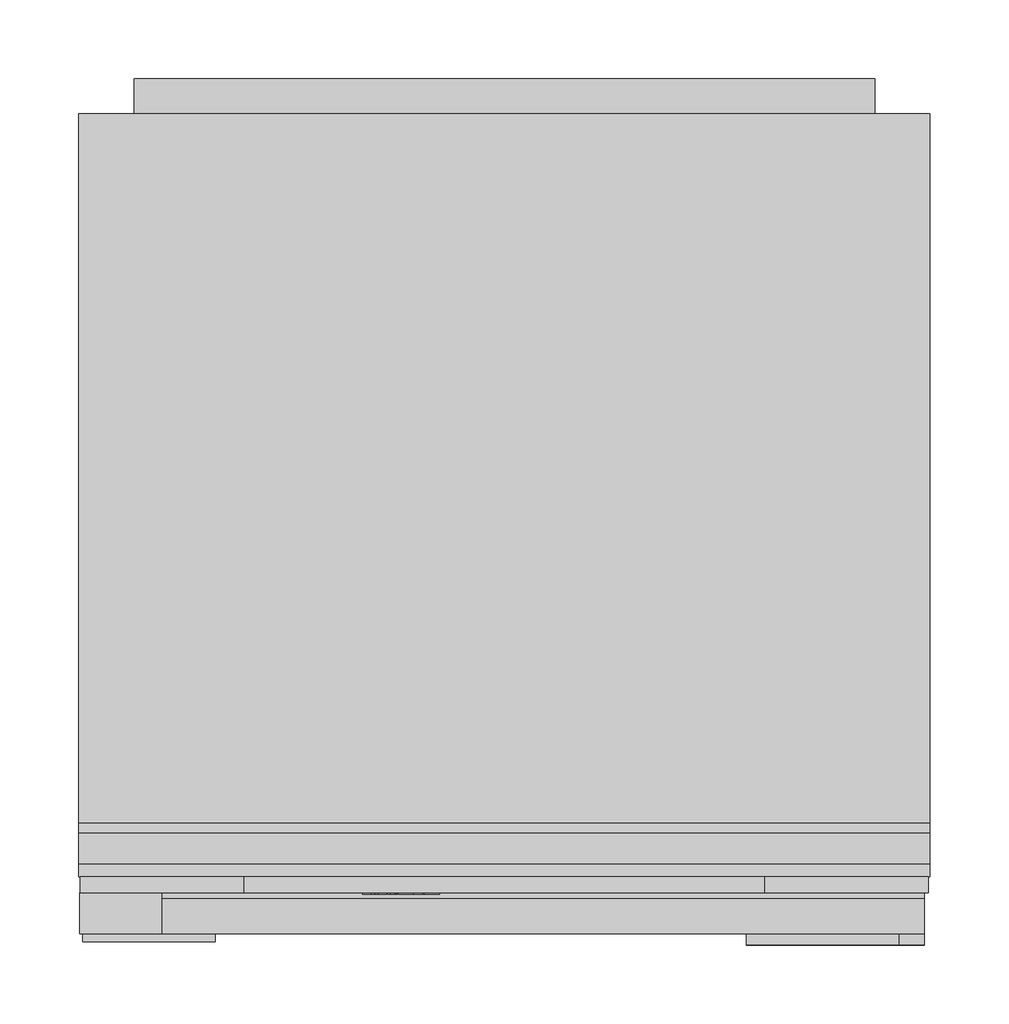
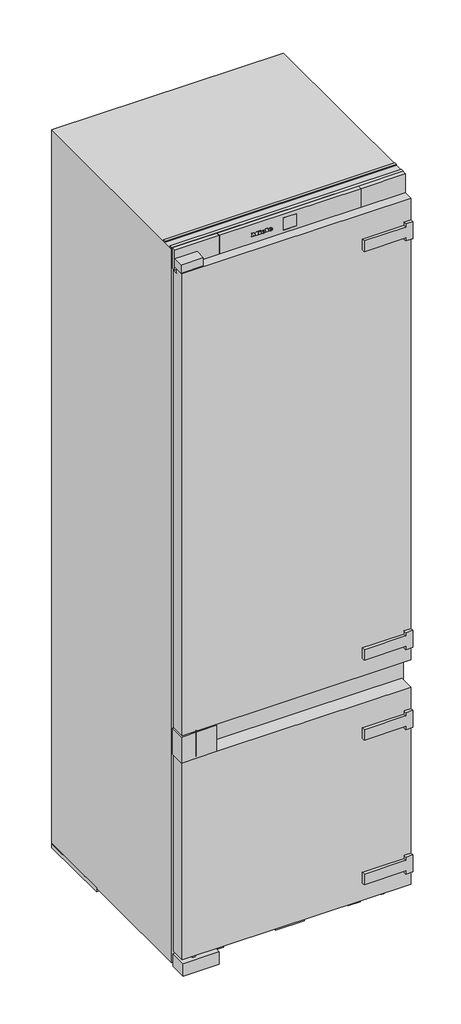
# Not in any storey: 1 proxy.
"""IFC4 building model written with IfcOpenShell, lengths in millimetres."""

import ifcopenshell
import ifcopenshell.guid

model = None  # the IFC model being written
_history = None  # IfcOwnerHistory: only IFC2X3 demands one
_inside = {}  # id of a spatial element -> (the spatial element, [elements in it])
_under = {}  # id of a project, library or spatial element -> (it, [spatial elements below it])
_declared = {}  # id of a project -> (the project, [libraries it declares])
_typed = {}  # id of a type object -> (the type object, [elements of that type])
_made_of = {}  # id of a material, layer set ... -> (it, [elements and type objects made of it])


def new_model(schema):
    """Start an empty IFC model of exactly this schema.

    Asked for "IFC4X3", IfcOpenShell would pick the latest addendum, in which some entities
    have other attributes; the version numbers below select the first issue.
    IFC2X3 requires an IfcOwnerHistory on every rooted entity: one is made here for all.
    """
    global model, _history
    if schema == "IFC4X3":
        model = ifcopenshell.file(schema_version=(4, 3, 0, 0))
    else:
        model = ifcopenshell.file(schema=schema)
    _inside.clear()
    _under.clear()
    _declared.clear()
    _typed.clear()
    _made_of.clear()
    _history = None
    if model.schema == "IFC2X3":
        org = make("IfcOrganization", Name="unknown")
        user = make(
            "IfcPersonAndOrganization",
            ThePerson=make("IfcPerson", FamilyName="unknown"),
            TheOrganization=org,
        )
        app = make(
            "IfcApplication",
            ApplicationDeveloper=org,
            Version="unknown",
            ApplicationFullName="unknown",
            ApplicationIdentifier="unknown",
        )
        _history = make(
            "IfcOwnerHistory",
            OwningUser=user,
            OwningApplication=app,
            ChangeAction="ADDED",
            CreationDate=0,
        )
    return model


def make(cls, **values):
    """One entity of the class cls with the attributes given. An attribute that is None is left unset."""
    return model.create_entity(
        cls, **{name: value for name, value in values.items() if value is not None}
    )


def rooted(cls, **values):
    """An entity with a GlobalId (a new one), such as an element, a storey or a relation."""
    return make(cls, GlobalId=ifcopenshell.guid.new(), OwnerHistory=_history, **values)


def si_unit(unit_type, name, prefix=None):
    """IfcSIUnit, for example si_unit("LENGTHUNIT", "METRE", prefix="MILLI")."""
    return make("IfcSIUnit", UnitType=unit_type, Prefix=prefix, Name=name)


def assignment(units):
    """IfcUnitAssignment: the units of a project."""
    return None if units is None else make("IfcUnitAssignment", Units=units)


def point(xyz):
    """IfcCartesianPoint."""
    return None if xyz is None else make("IfcCartesianPoint", Coordinates=xyz)


def direction(xyz):
    """IfcDirection."""
    return None if xyz is None else make("IfcDirection", DirectionRatios=xyz)


def frame(location, z_axis=None, x_axis=None):
    """IfcAxis2Placement3D, a coordinate frame: its origin and axes. An axis left out is left unset."""
    return make(
        "IfcAxis2Placement3D",
        Location=point(location),
        Axis=direction(z_axis),
        RefDirection=direction(x_axis),
    )


def frame_2d(location, x_axis=None):
    """IfcAxis2Placement2D, a coordinate frame in the plane: its origin and x axis."""
    return make(
        "IfcAxis2Placement2D", Location=point(location), RefDirection=direction(x_axis)
    )


def origin():
    """The frame at (0, 0, 0) with its axes left unset."""
    return frame((0.0, 0.0, 0.0))


def origin_with_axes():
    """The frame at (0, 0, 0) with the z axis (0, 0, 1) and the x axis (1, 0, 0) written out."""
    return frame((0.0, 0.0, 0.0), z_axis=(0.0, 0.0, 1.0), x_axis=(1.0, 0.0, 0.0))


def place(relative_to, where):
    """IfcLocalPlacement: puts the frame where relative to a parent placement (None: the world)."""
    return make(
        "IfcLocalPlacement", PlacementRelTo=relative_to, RelativePlacement=where
    )


def context(
    kind, dimensions, precision=None, world=None, true_north=None, identifier=None
):
    """IfcGeometricRepresentationContext, for example the 3D "Model" context."""
    return make(
        "IfcGeometricRepresentationContext",
        ContextIdentifier=identifier,
        ContextType=kind,
        CoordinateSpaceDimension=dimensions,
        Precision=precision,
        WorldCoordinateSystem=world,
        TrueNorth=true_north,
    )


def project(units=None, contexts=None):
    """IfcProject with its units and contexts."""
    return rooted(
        "IfcProject",
        Name="project",
        RepresentationContexts=contexts,
        UnitsInContext=assignment(units),
    )


def spatial(cls, under=None, at=None, **own):
    """A site, building, storey or space (cls), placed at a placement, below another one or the project."""
    s = rooted(cls, ObjectPlacement=at, **own)
    if under is not None:
        _under.setdefault(under.id(), (under, []))[1].append(s)
    return s


def polyline(points):
    """IfcPolyline through the points."""
    return make("IfcPolyline", Points=[point(p) for p in points])


def circle_curve(where, radius):
    """IfcCircle in the frame where."""
    return make("IfcCircle", Position=where, Radius=radius)


def ellipse_curve(where, semi_axis1, semi_axis2):
    """IfcEllipse in the frame where."""
    return make(
        "IfcEllipse", Position=where, SemiAxis1=semi_axis1, SemiAxis2=semi_axis2
    )


def trimmed(basis, trim1, trim2, sense, master):
    """IfcTrimmedCurve: the piece of a basis curve between two trims."""
    return make(
        "IfcTrimmedCurve",
        BasisCurve=basis,
        Trim1=trim1,
        Trim2=trim2,
        SenseAgreement=sense,
        MasterRepresentation=master,
    )


def segment(curve, same_sense, transition):
    """IfcCompositeCurveSegment."""
    return make(
        "IfcCompositeCurveSegment",
        Transition=transition,
        SameSense=same_sense,
        ParentCurve=curve,
    )


def composite_curve(segments, self_intersect=None):
    """IfcCompositeCurve: segments joined end to end."""
    return make("IfcCompositeCurve", Segments=segments, SelfIntersect=self_intersect)


def outline(outer, holes=None, kind="AREA"):
    """IfcArbitraryClosedProfileDef: a profile drawn as a closed curve; with holes, ...WithVoids."""
    if holes is None:
        return make("IfcArbitraryClosedProfileDef", ProfileType=kind, OuterCurve=outer)
    return make(
        "IfcArbitraryProfileDefWithVoids",
        ProfileType=kind,
        OuterCurve=outer,
        InnerCurves=holes,
    )


def extrude(swept, where, along, depth):
    """IfcExtrudedAreaSolid: the profile swept, set in the frame where, extruded along a direction by depth."""
    return make(
        "IfcExtrudedAreaSolid",
        SweptArea=swept,
        Position=where,
        ExtrudedDirection=direction(along),
        Depth=depth,
    )


def faces_of(points, faces, orient=None, outer=None):
    """IfcFace entities. A face is a list of loops; a loop is a list of indices into points, from 0.

    orient and outer hold one flag for each loop. By default every Orientation is true, the
    first loop of a face is its IfcFaceOuterBound and the others are IfcFaceBound.
    """
    made = []
    for i, loops in enumerate(faces):
        bounds = []
        for j, loop in enumerate(loops):
            is_outer = j == 0 if outer is None else outer[i][j]
            bounds.append(
                make(
                    "IfcFaceOuterBound" if is_outer else "IfcFaceBound",
                    Bound=make("IfcPolyLoop", Polygon=[points[k] for k in loop]),
                    Orientation=True if orient is None else orient[i][j],
                )
            )
        made.append(make("IfcFace", Bounds=bounds))
    return made


def faceted_brep(points, faces, orient=None, outer=None, voids=None):
    """IfcFacetedBrep: a solid bounded by flat faces; with voids (closed shells), ...WithVoids."""
    shared = [point(p) for p in points]
    hull = make("IfcClosedShell", CfsFaces=faces_of(shared, faces, orient, outer))
    if voids is None:
        return make("IfcFacetedBrep", Outer=hull)
    return make(
        "IfcFacetedBrepWithVoids",
        Outer=hull,
        Voids=[
            make(cls, CfsFaces=faces_of(shared, fs, o, b)) for cls, fs, o, b in voids
        ],
    )


def shape(context_of_items, identifier, shape_type, items):
    """IfcShapeRepresentation: the items that make up one representation, for example the "Body"."""
    return make(
        "IfcShapeRepresentation",
        ContextOfItems=context_of_items,
        RepresentationIdentifier=identifier,
        RepresentationType=shape_type,
        Items=items,
    )


def source(mapping_origin, context_of_items, identifier, shape_type, items):
    """IfcRepresentationMap: a shape defined once, which mapped items show again and again."""
    return make(
        "IfcRepresentationMap",
        MappingOrigin=mapping_origin,
        MappedRepresentation=shape(context_of_items, identifier, shape_type, items),
    )


def transform(
    local_origin,
    x_axis=None,
    y_axis=None,
    z_axis=None,
    scale=None,
    scale2=None,
    scale3=None,
    uniform=True,
):
    """IfcCartesianTransformationOperator3D, or its non-uniform kind. x_axis, y_axis, z_axis: its Axis1, 2, 3."""
    if uniform:
        return make(
            "IfcCartesianTransformationOperator3D",
            Axis1=direction(x_axis),
            Axis2=direction(y_axis),
            LocalOrigin=point(local_origin),
            Scale=scale,
            Axis3=direction(z_axis),
        )
    return make(
        "IfcCartesianTransformationOperator3DnonUniform",
        Axis1=direction(x_axis),
        Axis2=direction(y_axis),
        LocalOrigin=point(local_origin),
        Scale=scale,
        Axis3=direction(z_axis),
        Scale2=scale2,
        Scale3=scale3,
    )


def mapped(mapping_source, mapping_target):
    """IfcMappedItem: shows the shape of a source again, moved by a transform."""
    return make(
        "IfcMappedItem", MappingSource=mapping_source, MappingTarget=mapping_target
    )


def made_of(thing, what):
    """Note that an element or type object is made of a material, layer set ...; save() writes the relation."""
    if what is not None:
        _made_of.setdefault(what.id(), (what, []))[1].append(thing)
    return thing


def element(
    cls,
    number,
    at=None,
    inside=None,
    cuts=None,
    type_object=None,
    material=None,
    context=None,
    identifier="Body",
    shape_type=None,
    held_by="IfcProductDefinitionShape",
    body=None,
    shapes=None,
    **own,
):
    """One element of the class cls, such as IfcWall. Its Tag is "e" and its number.

    at: its placement. inside: the storey or other place that contains it. cuts: it is an
    opening in that element (IfcRelVoidsElement). A single representation is given by context,
    identifier, shape_type and body (its items); several are given by shapes. held_by: the class
    of the entity that holds the representations. save() writes the other relations.
    """
    e = rooted(cls, Tag="e%d" % number, ObjectPlacement=at, **own)
    if body is not None:
        shapes = [shape(context, identifier, shape_type, body)]
    if shapes is not None:
        e.Representation = make(held_by, Representations=shapes)
    if inside is not None:
        _inside.setdefault(inside.id(), (inside, []))[1].append(e)
    if cuts is not None:
        rooted(
            "IfcRelVoidsElement", RelatingBuildingElement=cuts, RelatedOpeningElement=e
        )
    if type_object is not None:
        _typed.setdefault(type_object.id(), (type_object, []))[1].append(e)
    return made_of(e, material)


def aggregate(whole, parts):
    """IfcRelAggregates: a whole, such as a stair, and the parts it consists of."""
    return rooted("IfcRelAggregates", RelatingObject=whole, RelatedObjects=parts)


def save(model, path):
    """Write the relations noted so far, then the file.

    IfcRelAggregates (storeys below a building ...), IfcRelContainedInSpatialStructure (elements
    in a storey), IfcRelDefinesByType, IfcRelAssociatesMaterial and IfcRelDeclares: one each for
    every whole, place, type object, material and project.
    """
    for whole, parts in _under.values():
        aggregate(whole, parts)
    for where, things in _inside.values():
        rooted(
            "IfcRelContainedInSpatialStructure",
            RelatedElements=things,
            RelatingStructure=where,
        )
    for kind, things in _typed.values():
        rooted("IfcRelDefinesByType", RelatedObjects=things, RelatingType=kind)
    for what, things in _made_of.values():
        rooted("IfcRelAssociatesMaterial", RelatedObjects=things, RelatingMaterial=what)
    for by, libraries in _declared.values():
        rooted("IfcRelDeclares", RelatingContext=by, RelatedDefinitions=libraries)
    model.write(path)


def plane_surface(at):
    """IfcPlane: the flat surface through the origin of the frame at, square to its z axis."""
    return make("IfcPlane", Position=at)


def cylinder_surface(at, radius):
    """IfcCylindricalSurface: all points at the distance radius from the z axis of the frame at."""
    return make("IfcCylindricalSurface", Position=at, Radius=radius)


def revolved_surface(curve, axis_point, axis_direction):
    """IfcSurfaceOfRevolution: the curve turned about the line through axis_point along axis_direction."""
    return make(
        "IfcSurfaceOfRevolution",
        SweptCurve=make("IfcArbitraryOpenProfileDef", ProfileType="CURVE", Curve=curve),
        AxisPosition=make("IfcAxis1Placement", Location=point(axis_point), Axis=direction(axis_direction)),
    )


def extruded_surface(curve, direction_of_extrusion, depth):
    """IfcSurfaceOfLinearExtrusion: the curve pushed along a direction by depth."""
    return make(
        "IfcSurfaceOfLinearExtrusion",
        SweptCurve=make("IfcArbitraryOpenProfileDef", ProfileType="CURVE", Curve=curve),
        ExtrudedDirection=direction(direction_of_extrusion),
        Depth=depth,
    )


def advanced_brep(points, edges, surfaces, faces):
    """IfcAdvancedBrep: a solid bounded by faces that lie on surfaces and meet in shared edges.

    An edge is (start, end): straight between two places in points (the first is 0);
    or (start, end, curve); or (start, end, curve, False) where it runs against its curve.
    A face is (place in surfaces, loops), or (place, loops, False) where it looks against
    its surface's normal. A loop lists edges by number (the first is 1), with a minus sign
    where the edge is run from its end to its start. The first loop is the outer one.
    """
    corners = [point(p) for p in points]
    vertices = [make("IfcVertexPoint", VertexGeometry=c) for c in corners]
    made = []
    for start, end, *more in edges:
        made.append(
            make(
                "IfcEdgeCurve",
                EdgeStart=vertices[start],
                EdgeEnd=vertices[end],
                EdgeGeometry=more[0] if more else make("IfcPolyline", Points=[corners[start], corners[end]]),
                SameSense=more[1] if len(more) > 1 else True,
            )
        )
    hull = []
    for where, loops, *sense in faces:
        bounds = []
        for j, loop in enumerate(loops):
            ring = [make("IfcOrientedEdge", EdgeElement=made[abs(k) - 1], Orientation=k > 0) for k in loop]
            bounds.append(
                make(
                    "IfcFaceOuterBound" if j == 0 else "IfcFaceBound",
                    Bound=make("IfcEdgeLoop", EdgeList=ring),
                    Orientation=True,
                )
            )
        hull.append(make("IfcAdvancedFace", Bounds=bounds, FaceSurface=surfaces[where], SameSense=sense[0] if sense else True))
    return make("IfcAdvancedBrep", Outer=make("IfcClosedShell", CfsFaces=hull))


def specialty_equipment_c5a7a901(model_context):
    return source(origin(), model_context, "Body", "SolidModel", [
        advanced_brep(
        [(-46.64, 32.0, 1742.896), (-46.64, 32.0, 1743.704), (-41.288, 32.0, 1743.704), (-50.6, 32.0, 1743.704), (-48.4, 32.0, 1741.0), (-41.424, 32.0, 1742.896), (-43.84, 32.0, 1742.896), (-45.744, 32.0, 1742.0), (-46.64, 32.0, 1744.728), (-46.64, 32.0, 1745.6), (-45.272, 32.0, 1745.6), (-45.272, 32.0, 1744.728), (-46.64, 33.0, 1742.896), (-45.744, 33.0, 1742.0), (-43.84, 33.0, 1742.896), (-41.424, 33.0, 1742.896), (-48.4, 33.0, 1741.0), (-50.6, 33.0, 1743.704), (-41.288, 33.0, 1743.704), (-46.64, 33.0, 1743.704), (-46.64, 33.0, 1744.728), (-45.272, 33.0, 1744.728), (-45.272, 33.0, 1745.6), (-46.64, 33.0, 1745.6)],
        [
            (0, 1),
            (1, 2),
            (2, 3, ellipse_curve(frame((-45.944, 32.0, 1743.704), z_axis=(0.0, -1.0, 0.0), x_axis=(-1.0, 0.0, 0.0)), 4.656, 3.848)),
            (3, 4, circle_curve(frame((-47.5039564, 32.0, 1743.976), z_axis=(0.0, -1.0, 0.0), x_axis=(0.0, 0.0, -1.0)), 3.1079688)),
            (4, 5, circle_curve(frame((-46.0372064, 32.0, 1746.088), z_axis=(0.0, -1.0, 0.0), x_axis=(0.0, 0.0, -1.0)), 5.6098607)),
            (5, 6),
            (6, 7, circle_curve(frame((-45.3529412, 32.0, 1743.64), z_axis=(0.0, 1.0, 0.0), x_axis=(0.0, 0.0, -1.0)), 1.6859795)),
            (7, 0, circle_curve(frame((-45.744, 32.0, 1742.896), z_axis=(0.0, 1.0, 0.0), x_axis=(0.0, 0.0, -1.0)), 0.896)),
            (8, 9),
            (9, 10, circle_curve(frame((-45.956, 32.0, 1745.6), z_axis=(0.0, 1.0, 0.0), x_axis=(0.0, 0.0, -1.0)), 0.684)),
            (10, 11),
            (11, 8),
            (12, 13, circle_curve(frame((-45.744, 33.0, 1742.896), z_axis=(0.0, -1.0, 0.0), x_axis=(0.0, 0.0, -1.0)), 0.896)),
            (13, 14, circle_curve(frame((-45.3529412, 33.0, 1743.64), z_axis=(0.0, -1.0, 0.0), x_axis=(0.0, 0.0, -1.0)), 1.6859795)),
            (14, 15),
            (15, 16, circle_curve(frame((-46.0372064, 33.0, 1746.088), z_axis=(0.0, 1.0, 0.0), x_axis=(0.0, 0.0, -1.0)), 5.6098607)),
            (16, 17, circle_curve(frame((-47.5039564, 33.0, 1743.976), z_axis=(0.0, 1.0, 0.0), x_axis=(0.0, 0.0, -1.0)), 3.1079688)),
            (17, 18, ellipse_curve(frame((-45.944, 33.0, 1743.704), z_axis=(0.0, 1.0, 0.0), x_axis=(-1.0, 0.0, 0.0)), 4.656, 3.848)),
            (18, 19),
            (19, 12),
            (20, 21),
            (21, 22),
            (22, 23, circle_curve(frame((-45.956, 33.0, 1745.6), z_axis=(0.0, -1.0, 0.0), x_axis=(0.0, 0.0, -1.0)), 0.684)),
            (23, 20),
            (0, 12),
            (19, 1),
            (18, 2),
            (5, 15),
            (14, 6),
            (17, 3),
            (13, 7),
            (16, 4),
            (8, 20),
            (23, 9),
            (22, 10),
            (21, 11),
        ],
        [
            plane_surface(frame((-46.64, 32.0, 1743.704), z_axis=(0.0, -1.0, 0.0), x_axis=(0.0, 0.0, 1.0))),
            plane_surface(frame((-46.64, 33.0, 1743.704), z_axis=(0.0, 1.0, 0.0), x_axis=(0.0, 0.0, -1.0))),
            plane_surface(frame((-46.64, 32.0, 1742.896), z_axis=(1.0, 0.0, 0.0), x_axis=(0.0, 1.0, 0.0))),
            plane_surface(frame((-46.64, 32.0, 1743.704), z_axis=(0.0, 0.0, -1.0), x_axis=(0.0, 1.0, 0.0))),
            plane_surface(frame((-41.424, 32.0, 1742.896), z_axis=(0.0, 0.0, 1.0), x_axis=(0.0, 1.0, 0.0))),
            extruded_surface(trimmed(ellipse_curve(frame((-45.944, 34.0, 1743.704), z_axis=(0.0, -1.0, 0.0), x_axis=(-1.0, 0.0, 0.0)), 4.656, 3.848), [point((-41.288, 34.0, 1743.704))], [point((-50.6, 34.0, 1743.704))], True, "CARTESIAN"), (0.0, -1.0, 0.0), 1.0),
            revolved_surface(polyline([(-45.3529412, 33.0, 1741.9540205), (-45.3529412, 32.0, 1741.9540205)]), (-45.3529412, 33.0, 1743.64), (0.0, 1.0, 0.0)),
            revolved_surface(polyline([(-45.744, 33.0, 1742.0), (-45.744, 32.0, 1742.0)]), (-45.744, 33.0, 1742.896), (0.0, 1.0, 0.0)),
            cylinder_surface(frame((-47.5039564, 33.0, 1743.976), z_axis=(0.0, -1.0, 0.0), x_axis=(0.0, 0.0, -1.0)), 3.1079688),
            cylinder_surface(frame((-46.0372064, 33.0, 1746.088), z_axis=(0.0, -1.0, 0.0), x_axis=(0.0, 0.0, -1.0)), 5.6098607),
            plane_surface(frame((-46.64, 32.0, 1744.728), z_axis=(1.0, 0.0, 0.0), x_axis=(0.0, 1.0, 0.0))),
            revolved_surface(polyline([(-45.956, 33.0, 1744.916), (-45.956, 32.0, 1744.916)]), (-45.956, 33.0, 1745.6), (0.0, 1.0, 0.0)),
            plane_surface(frame((-45.272, 32.0, 1745.6), z_axis=(-1.0, 0.0, 0.0), x_axis=(0.0, 1.0, 0.0))),
            plane_surface(frame((-45.272, 32.0, 1744.728), z_axis=(0.0, 0.0, 1.0), x_axis=(0.0, 1.0, 0.0))),
        ],
        [
            (0, [[1, 2, 3, 4, 5, 6, 7, 8], [9, 10, 11, 12]]),
            (1, [[13, 14, 15, 16, 17, 18, 19, 20], [21, 22, 23, 24]]),
            (2, [[-1, 25, -20, 26]]),
            (3, [[-2, -26, -19, 27]]),
            (4, [[-6, 28, -15, 29]]),
            (5, [[-3, -27, -18, 30]]),
            (6, [[-7, -29, -14, 31]]),
            (7, [[-8, -31, -13, -25]]),
            (8, [[-4, -30, -17, 32]]),
            (9, [[-5, -32, -16, -28]]),
            (10, [[-9, 33, -24, 34]]),
            (11, [[-10, -34, -23, 35]]),
            (12, [[-11, -35, -22, 36]]),
            (13, [[-12, -36, -21, -33]]),
        ],
    ),
        advanced_brep(
        [(-63.336, 32.0, 1742.896), (-63.336, 32.0, 1743.704), (-57.984, 32.0, 1743.704), (-67.296, 32.0, 1743.704), (-65.096, 32.0, 1741.0), (-58.12, 32.0, 1742.896), (-60.536, 32.0, 1742.896), (-62.44, 32.0, 1742.0), (-63.336, 32.0, 1744.728), (-63.336, 32.0, 1745.6), (-61.968, 32.0, 1745.6), (-61.968, 32.0, 1744.728), (-63.336, 33.0, 1742.896), (-62.44, 33.0, 1742.0), (-60.536, 33.0, 1742.896), (-58.12, 33.0, 1742.896), (-65.096, 33.0, 1741.0), (-67.296, 33.0, 1743.704), (-57.984, 33.0, 1743.704), (-63.336, 33.0, 1743.704), (-63.336, 33.0, 1744.728), (-61.968, 33.0, 1744.728), (-61.968, 33.0, 1745.6), (-63.336, 33.0, 1745.6)],
        [
            (0, 1),
            (1, 2),
            (2, 3, ellipse_curve(frame((-62.64, 32.0, 1743.704), z_axis=(0.0, -1.0, 0.0), x_axis=(-1.0, 0.0, 0.0)), 4.656, 3.848)),
            (3, 4, circle_curve(frame((-64.1999564, 32.0, 1743.976), z_axis=(0.0, -1.0, 0.0), x_axis=(0.0, 0.0, -1.0)), 3.1079688)),
            (4, 5, circle_curve(frame((-62.7332064, 32.0, 1746.088), z_axis=(0.0, -1.0, 0.0), x_axis=(0.0, 0.0, -1.0)), 5.6098607)),
            (5, 6),
            (6, 7, circle_curve(frame((-62.0489412, 32.0, 1743.64), z_axis=(0.0, 1.0, 0.0), x_axis=(0.0, 0.0, -1.0)), 1.6859795)),
            (7, 0, circle_curve(frame((-62.44, 32.0, 1742.896), z_axis=(0.0, 1.0, 0.0), x_axis=(0.0, 0.0, -1.0)), 0.896)),
            (8, 9),
            (9, 10, circle_curve(frame((-62.652, 32.0, 1745.6), z_axis=(0.0, 1.0, 0.0), x_axis=(0.0, 0.0, -1.0)), 0.684)),
            (10, 11),
            (11, 8),
            (12, 13, circle_curve(frame((-62.44, 33.0, 1742.896), z_axis=(0.0, -1.0, 0.0), x_axis=(0.0, 0.0, -1.0)), 0.896)),
            (13, 14, circle_curve(frame((-62.0489412, 33.0, 1743.64), z_axis=(0.0, -1.0, 0.0), x_axis=(0.0, 0.0, -1.0)), 1.6859795)),
            (14, 15),
            (15, 16, circle_curve(frame((-62.7332064, 33.0, 1746.088), z_axis=(0.0, 1.0, 0.0), x_axis=(0.0, 0.0, -1.0)), 5.6098607)),
            (16, 17, circle_curve(frame((-64.1999564, 33.0, 1743.976), z_axis=(0.0, 1.0, 0.0), x_axis=(0.0, 0.0, -1.0)), 3.1079688)),
            (17, 18, ellipse_curve(frame((-62.64, 33.0, 1743.704), z_axis=(0.0, 1.0, 0.0), x_axis=(-1.0, 0.0, 0.0)), 4.656, 3.848)),
            (18, 19),
            (19, 12),
            (20, 21),
            (21, 22),
            (22, 23, circle_curve(frame((-62.652, 33.0, 1745.6), z_axis=(0.0, -1.0, 0.0), x_axis=(0.0, 0.0, -1.0)), 0.684)),
            (23, 20),
            (0, 12),
            (19, 1),
            (18, 2),
            (5, 15),
            (14, 6),
            (17, 3),
            (13, 7),
            (16, 4),
            (8, 20),
            (23, 9),
            (22, 10),
            (21, 11),
        ],
        [
            plane_surface(frame((-63.336, 32.0, 1743.704), z_axis=(0.0, -1.0, 0.0), x_axis=(0.0, 0.0, 1.0))),
            plane_surface(frame((-63.336, 33.0, 1743.704), z_axis=(0.0, 1.0, 0.0), x_axis=(0.0, 0.0, -1.0))),
            plane_surface(frame((-63.336, 32.0, 1742.896), z_axis=(1.0, 0.0, 0.0), x_axis=(0.0, 1.0, 0.0))),
            plane_surface(frame((-63.336, 32.0, 1743.704), z_axis=(0.0, 0.0, -1.0), x_axis=(0.0, 1.0, 0.0))),
            plane_surface(frame((-58.12, 32.0, 1742.896), z_axis=(0.0, 0.0, 1.0), x_axis=(0.0, 1.0, 0.0))),
            extruded_surface(trimmed(ellipse_curve(frame((-62.64, 34.0, 1743.704), z_axis=(0.0, -1.0, 0.0), x_axis=(-1.0, 0.0, 0.0)), 4.656, 3.848), [point((-57.984, 34.0, 1743.704))], [point((-67.296, 34.0, 1743.704))], True, "CARTESIAN"), (0.0, -1.0, 0.0), 1.0),
            revolved_surface(polyline([(-62.0489412, 33.0, 1741.9540205), (-62.0489412, 32.0, 1741.9540205)]), (-62.0489412, 33.0, 1743.64), (0.0, 1.0, 0.0)),
            revolved_surface(polyline([(-62.44, 33.0, 1742.0), (-62.44, 32.0, 1742.0)]), (-62.44, 33.0, 1742.896), (0.0, 1.0, 0.0)),
            cylinder_surface(frame((-64.1999564, 33.0, 1743.976), z_axis=(0.0, -1.0, 0.0), x_axis=(0.0, 0.0, -1.0)), 3.1079688),
            cylinder_surface(frame((-62.7332064, 33.0, 1746.088), z_axis=(0.0, -1.0, 0.0), x_axis=(0.0, 0.0, -1.0)), 5.6098607),
            plane_surface(frame((-63.336, 32.0, 1744.728), z_axis=(1.0, 0.0, 0.0), x_axis=(0.0, 1.0, 0.0))),
            revolved_surface(polyline([(-62.652, 33.0, 1744.916), (-62.652, 32.0, 1744.916)]), (-62.652, 33.0, 1745.6), (0.0, 1.0, 0.0)),
            plane_surface(frame((-61.968, 32.0, 1745.6), z_axis=(-1.0, 0.0, 0.0), x_axis=(0.0, 1.0, 0.0))),
            plane_surface(frame((-61.968, 32.0, 1744.728), z_axis=(0.0, 0.0, 1.0), x_axis=(0.0, 1.0, 0.0))),
        ],
        [
            (0, [[1, 2, 3, 4, 5, 6, 7, 8], [9, 10, 11, 12]]),
            (1, [[13, 14, 15, 16, 17, 18, 19, 20], [21, 22, 23, 24]]),
            (2, [[-1, 25, -20, 26]]),
            (3, [[-2, -26, -19, 27]]),
            (4, [[-6, 28, -15, 29]]),
            (5, [[-3, -27, -18, 30]]),
            (6, [[-7, -29, -14, 31]]),
            (7, [[-8, -31, -13, -25]]),
            (8, [[-4, -30, -17, 32]]),
            (9, [[-5, -32, -16, -28]]),
            (10, [[-9, 33, -24, 34]]),
            (11, [[-10, -34, -23, 35]]),
            (12, [[-11, -35, -22, 36]]),
            (13, [[-12, -36, -21, -33]]),
        ],
    ),
        extrude(outline(polyline([(1748.528, -72.08), (1747.232, -71.472), (1748.496, -68.76), (1749.792, -69.36), (1748.528, -72.08)])), frame((0.0, 32.0, 0.0), z_axis=(0.0, 1.0, 0.0), x_axis=(0.0, 0.0, 1.0)), (0.0, 0.0, 1.0), 1.0),
        extrude(outline(polyline([(1747.056, -74.056), (1745.624, -74.056), (1745.624, -73.104), (1742.344, -73.104), (1742.344, -74.056), (1741.0, -74.056), (1741.0, -67.744), (1742.344, -67.744), (1742.344, -68.672), (1747.056, -68.672), (1747.056, -74.056)])), frame((0.0, 32.0, 0.0), z_axis=(0.0, 1.0, 0.0), x_axis=(0.0, 0.0, 1.0)), (0.0, 0.0, 1.0), 1.0),
        extrude(outline(polyline([(1747.696, -57.536), (1747.696, -56.576), (1742.344, -56.576), (1742.344, -57.536), (1741.0, -57.536), (1741.0, -51.048), (1742.344, -51.048), (1742.344, -52.032), (1749.0, -52.032), (1749.0, -57.536), (1747.696, -57.536)])), frame((0.0, 32.0, 0.0), z_axis=(0.0, 1.0, 0.0), x_axis=(0.0, 0.0, 1.0)), (0.0, 0.0, 1.0), 1.0),
        extrude(outline(polyline([(1747.696, -90.0), (1747.696, -89.032), (1742.344, -89.032), (1742.344, -90.0), (1741.0, -90.0), (1741.0, -86.48), (1742.344, -86.48), (1742.344, -87.44), (1745.7471247, -87.44), (1741.0, -83.864), (1745.8152223, -80.272), (1742.344, -80.272), (1742.344, -81.256), (1741.0, -81.256), (1741.0, -74.872), (1742.344, -74.872), (1742.344, -75.888), (1747.696, -75.888), (1747.696, -74.872), (1749.0, -74.872), (1749.0, -79.744), (1746.0, -82.08), (1749.0, -84.424), (1749.0, -90.0), (1747.696, -90.0)])), frame((0.0, 32.0, 0.0), z_axis=(0.0, 1.0, 0.0), x_axis=(0.0, 0.0, 1.0)), (0.0, 0.0, 1.0), 1.0),
        extrude(outline(polyline([(470.0, 250.5), (462.0, 250.5), (462.0, 153.5), (436.0, 153.5), (436.0, 250.5), (428.0, 250.5), (428.0, 266.5), (470.0, 266.5), (470.0, 250.5)])), frame((0.0, 0.0, 0.0), z_axis=(0.0, 1.0, 0.0), x_axis=(0.0, 0.0, 1.0)), (0.0, 0.0, 1.0), 7.0),
        extrude(outline(polyline([(114.0, 250.5), (106.0, 250.5), (106.0, 153.5), (80.0, 153.5), (80.0, 250.5), (72.0, 250.5), (72.0, 266.5), (114.0, 266.5), (114.0, 250.5)])), frame((0.0, 0.0, 0.0), z_axis=(0.0, 1.0, 0.0), x_axis=(0.0, 0.0, 1.0)), (0.0, 0.0, 1.0), 7.0),
        extrude(outline(polyline([(1673.0, 250.5), (1665.0, 250.5), (1665.0, 153.5), (1639.0, 153.5), (1639.0, 250.5), (1631.0, 250.5), (1631.0, 266.5), (1673.0, 266.5), (1673.0, 250.5)])), frame((0.0, 0.0, 0.0), z_axis=(0.0, 1.0, 0.0), x_axis=(0.0, 0.0, 1.0)), (0.0, 0.0, 1.0), 7.0),
        extrude(outline(polyline([(667.0, 250.5), (659.0, 250.5), (659.0, 153.5), (633.0, 153.5), (633.0, 250.5), (625.0, 250.5), (625.0, 266.5), (667.0, 266.5), (667.0, 250.5)])), frame((0.0, 0.0, 0.0), z_axis=(0.0, 1.0, 0.0), x_axis=(0.0, 0.0, 1.0)), (0.0, 0.0, 1.0), 7.0),
        extrude(outline(polyline([(-267.5, 43.0), (-183.5, 43.0), (-183.5, 2.0), (-267.5, 2.0), (-267.5, 43.0)])), frame((0.0, 0.0, 1.0), z_axis=(0.0, 0.0, 1.0), x_axis=(1.0, 0.0, 0.0)), (0.0, 0.0, 1.0), 31.0),
        extrude(outline(polyline([(-217.5, 7.0), (-269.5, 7.0), (-269.5, 33.0), (-217.5, 33.0), (-217.5, 7.0)])), frame((0.0, 0.0, 1730.0), z_axis=(0.0, 0.0, 1.0), x_axis=(1.0, 0.0, 0.0)), (0.0, 0.0, 1.0), 19.0),
        extrude(outline(polyline([(7.0, 590.0), (7.0, 1727.0), (29.0, 1727.0), (29.0, 1715.0), (43.0, 1715.0), (43.0, 590.0), (7.0, 590.0)])), frame((-266.5, 0.0, 0.0), z_axis=(1.0, 0.0, 0.0), x_axis=(0.0, 1.0, 0.0)), (0.0, 0.0, 1.0), 533.0),
        extrude(outline(polyline([(-186.5, 7.0), (-268.5, 7.0), (-268.5, 43.0), (-186.5, 43.0), (-186.5, 7.0)]), holes=[composite_curve([segment(trimmed(circle_curve(frame_2d((-236.5, 16.0)), 6.0), [point((-230.5, 16.0))], [point((-242.5, 16.0))], True, "CARTESIAN"), True, "CONTINUOUS"), segment(trimmed(circle_curve(frame_2d((-236.5, 16.0)), 6.0), [point((-242.5, 16.0))], [point((-230.5, 16.0))], True, "CARTESIAN"), True, "CONTINUOUS")], self_intersect=False)]), frame((0.0, 0.0, 523.0), z_axis=(0.0, 0.0, 1.0), x_axis=(1.0, 0.0, 0.0)), (0.0, 0.0, 1.0), 64.0),
        extrude(outline(polyline([(-266.5, 43.0), (266.5, 43.0), (266.5, 7.0), (-266.5, 7.0), (-266.5, 43.0)])), frame((0.0, 0.0, 38.0), z_axis=(0.0, 0.0, 1.0), x_axis=(1.0, 0.0, 0.0)), (0.0, 0.0, 1.0), 485.0),
        extrude(outline(composite_curve([segment(trimmed(circle_curve(frame_2d((-236.5, 16.0)), 6.0), [point((-236.5, 22.0))], [point((-236.5, 10.0))], False, "CARTESIAN"), True, "CONTINUOUS"), segment(trimmed(circle_curve(frame_2d((-236.5, 16.0)), 6.0), [point((-236.5, 10.0))], [point((-236.5, 22.0))], False, "CARTESIAN"), True, "CONTINUOUS")], self_intersect=False)), frame((0.0, 0.0, 1727.0), z_axis=(0.0, 0.0, 1.0), x_axis=(1.0, 0.0, 0.0)), (0.0, 0.0, 1.0), 3.0),
        extrude(outline(composite_curve([segment(trimmed(circle_curve(frame_2d((-236.5, 16.0)), 6.0), [point((-230.5, 16.0))], [point((-242.5, 16.0))], False, "CARTESIAN"), True, "CONTINUOUS"), segment(trimmed(circle_curve(frame_2d((-236.5, 16.0)), 6.0), [point((-242.5, 16.0))], [point((-230.5, 16.0))], False, "CARTESIAN"), True, "CONTINUOUS")], self_intersect=False)), frame((0.0, 0.0, 32.0), z_axis=(0.0, 0.0, 1.0), x_axis=(1.0, 0.0, 0.0)), (0.0, 0.0, 1.0), 6.0),
        extrude(outline(composite_curve([segment(trimmed(circle_curve(frame_2d((-236.5, 16.0)), 6.0), [point((-230.5, 16.0))], [point((-242.5, 16.0))], False, "CARTESIAN"), True, "CONTINUOUS"), segment(trimmed(circle_curve(frame_2d((-236.5, 16.0)), 6.0), [point((-242.5, 16.0))], [point((-230.5, 16.0))], False, "CARTESIAN"), True, "CONTINUOUS")], self_intersect=False)), frame((0.0, 0.0, 523.0), z_axis=(0.0, 0.0, 1.0), x_axis=(1.0, 0.0, 0.0)), (0.0, 0.0, 1.0), 67.0),
        faceted_brep([(165.0, 33.0, 1770.0), (-165.0, 33.0, 1770.0), (-165.0, 33.0, 1721.0), (165.0, 33.0, 1721.0), (15.0, 33.0, 1761.0), (15.0, 33.0, 1731.0), (-15.0, 33.0, 1731.0), (-15.0, 33.0, 1761.0), (165.0, 43.0, 1770.0), (165.0, 43.0, 1721.0), (-165.0, 43.0, 1721.0), (-165.0, 43.0, 1770.0), (15.0, 34.0, 1761.0), (-15.0, 34.0, 1761.0), (-15.0, 34.0, 1731.0), (15.0, 34.0, 1731.0)], [[[0, 1, 2, 3], [4, 5, 6, 7]], [[8, 9, 10, 11]], [[0, 3, 9, 8]], [[3, 2, 10, 9]], [[2, 1, 11, 10]], [[1, 0, 8, 11]], [[12, 13, 14, 15]], [[12, 15, 5, 4]], [[15, 14, 6, 5]], [[14, 13, 7, 6]], [[13, 12, 4, 7]]]),
        extrude(outline(polyline([(165.0, 43.0), (269.0, 43.0), (269.0, 33.0), (165.0, 33.0), (165.0, 43.0)])), frame((0.0, 0.0, 1721.0), z_axis=(0.0, 0.0, 1.0), x_axis=(1.0, 0.0, 0.0)), (0.0, 0.0, 1.0), 49.0),
        extrude(outline(polyline([(-269.0, 43.0), (-165.0, 43.0), (-165.0, 33.0), (-269.0, 33.0), (-269.0, 43.0)])), frame((0.0, 0.0, 1721.0), z_axis=(0.0, 0.0, 1.0), x_axis=(1.0, 0.0, 0.0)), (0.0, 0.0, 1.0), 49.0),
        extrude(outline(polyline([(-15.0, 34.0), (15.0, 34.0), (15.0, 33.0), (-15.0, 33.0), (-15.0, 34.0)])), frame((0.0, 0.0, 1731.0), z_axis=(0.0, 0.0, 1.0), x_axis=(1.0, 0.0, 0.0)), (0.0, 0.0, 1.0), 30.0),
        extrude(outline(polyline([(1647.0, -235.0), (27.0, -235.0), (27.0, 235.0), (130.0, 235.0), (130.0, 180.0), (160.0, 180.0), (160.0, 235.0), (1647.0, 235.0), (1647.0, -235.0)])), frame((0.0, 527.0, 0.0), z_axis=(0.0, 1.0, 0.0), x_axis=(0.0, 0.0, 1.0)), (0.0, 0.0, 1.0), 22.0),
        extrude(outline(polyline([(-144.929185, 51.0), (-174.0, 51.0), (-194.6983363, 347.0), (-165.6275213, 347.0), (-144.929185, 51.0)])), origin_with_axes(), (0.0, 0.0, 1.0), 10.0),
        extrude(outline(polyline([(144.929185, 51.0), (165.6275213, 347.0), (194.6983363, 347.0), (174.0, 51.0), (144.929185, 51.0)])), origin_with_axes(), (0.0, 0.0, 1.0), 10.0),
        extrude(outline(polyline([(540.4384039, 149.874164), (547.6647626, 149.874164), (547.6647626, 139.824714), (540.2826236, 139.824714), (540.2826236, 141.0836119), (546.4056247, 141.0836119), (546.4056247, 144.3750411), (540.7614845, 144.3750411), (540.7614845, 145.6249589), (546.4056247, 145.6249589), (546.4056247, 148.6148402), (540.4384039, 148.6148402), (540.4384039, 149.874164)])), frame((194.0, 0.0, 0.0), z_axis=(1.0, 0.0, 0.0), x_axis=(0.0, 1.0, 0.0)), (0.0, 0.0, 1.0), 1.0),
        extrude(outline(polyline([(537.1383052, 149.8716162), (538.399354, 149.8716162), (538.399354, 139.824714), (532.1225656, 139.824714), (532.1225656, 141.0927041), (537.1383052, 141.0927041), (537.1383052, 149.8716162)])), frame((194.0, 0.0, 0.0), z_axis=(1.0, 0.0, 0.0), x_axis=(0.0, 1.0, 0.0)), (0.0, 0.0, 1.0), 1.0),
        advanced_brep(
        [(232.5, 527.0, 145.0), (217.5, 527.0, 145.0), (232.5, 548.5, 145.0), (217.5, 533.5, 145.0), (195.0, 548.5, 145.0), (195.0, 533.5, 145.0)],
        [
            (0, 1, circle_curve(frame((225.0, 527.0, 145.0), z_axis=(0.0, -1.0, 0.0), x_axis=(-1.0, 0.0, 0.0)), 7.5)),
            (1, 0, circle_curve(frame((225.0, 527.0, 145.0), z_axis=(0.0, -1.0, 0.0), x_axis=(-1.0, 0.0, 0.0)), 7.5)),
            (0, 2),
            (2, 3, ellipse_curve(frame((225.0, 541.0, 145.0), z_axis=(0.7071067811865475, -0.7071067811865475, 0.0), x_axis=(-0.7071067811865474, -0.7071067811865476, 0.0)), 10.6066017, 7.5)),
            (3, 1),
            (3, 2, ellipse_curve(frame((225.0, 541.0, 145.0), z_axis=(0.7071067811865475, -0.7071067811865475, 0.0), x_axis=(-0.7071067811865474, -0.7071067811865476, 0.0)), 10.6066017, 7.5)),
            (4, 5, circle_curve(frame((195.0, 541.0, 145.0), z_axis=(-1.0, 0.0, 0.0), x_axis=(0.0, -1.0, 0.0)), 7.5)),
            (5, 4, circle_curve(frame((195.0, 541.0, 145.0), z_axis=(-1.0, 0.0, 0.0), x_axis=(0.0, -1.0, 0.0)), 7.5)),
            (2, 4),
            (5, 3),
        ],
        [
            plane_surface(frame((225.0, 527.0, 145.0), z_axis=(0.0, -1.0, 0.0), x_axis=(0.0, 0.0, 1.0))),
            cylinder_surface(frame((225.0, 527.0, 145.0), z_axis=(0.0, -1.0, 0.0), x_axis=(-1.0, 0.0, 0.0)), 7.5),
            plane_surface(frame((195.0, 541.0, 145.0), z_axis=(-1.0, 0.0, 0.0), x_axis=(0.0, 0.0, 1.0))),
            cylinder_surface(frame((225.0, 541.0, 145.0), z_axis=(1.0, 0.0, 0.0), x_axis=(0.0, -1.0, 0.0)), 7.5),
        ],
        [
            (0, [[1, 2]]),
            (1, [[-1, 3, 4, 5]]),
            (1, [[-2, -5, 6, -3]]),
            (2, [[7, 8]]),
            (3, [[-4, 9, -8, 10]]),
            (3, [[-6, -10, -7, -9]]),
        ],
    ),
        extrude(outline(polyline([(-34.0, 43.0), (34.0, 43.0), (34.0, 34.0), (-34.0, 34.0), (-34.0, 43.0)])), frame((0.0, 0.0, 13.0), z_axis=(0.0, 0.0, 1.0), x_axis=(1.0, 0.0, 0.0)), (0.0, 0.0, 1.0), 19.0),
        extrude(outline(polyline([(270.0, 51.0), (270.0, 43.0), (-270.0, 43.0), (-270.0, 51.0), (270.0, 51.0)])), frame((0.0, 0.0, 1767.0), z_axis=(0.0, 0.0, 1.0), x_axis=(1.0, 0.0, 0.0)), (0.0, 0.0, 1.0), 3.0),
        extrude(outline(polyline([(270.0, 77.0), (270.0, 71.0), (-270.0, 71.0), (-270.0, 77.0), (270.0, 77.0)])), frame((0.0, 0.0, 1767.0), z_axis=(0.0, 0.0, 1.0), x_axis=(1.0, 0.0, 0.0)), (0.0, 0.0, 1.0), 3.0),
        extrude(outline(polyline([(-234.0, 43.0), (-234.0, 489.0), (234.0, 489.0), (234.0, 43.0), (-234.0, 43.0)])), frame((0.0, 0.0, 814.0), z_axis=(0.0, 0.0, 1.0), x_axis=(1.0, 0.0, 0.0)), (0.0, 0.0, 1.0), 3.0),
        extrude(outline(polyline([(-209.0, 311.0), (-209.0, 450.0), (209.0, 450.0), (209.0, 311.0), (-209.0, 311.0)])), frame((0.0, 0.0, 93.0), z_axis=(0.0, 0.0, 1.0), x_axis=(1.0, 0.0, 0.0)), (0.0, 0.0, 1.0), 200.0),
        extrude(outline(composite_curve([segment(trimmed(circle_curve(frame_2d((228.0, 63.0)), 11.0), [point((239.0, 63.0))], [point((217.0, 63.0))], False, "CARTESIAN"), True, "CONTINUOUS"), segment(trimmed(circle_curve(frame_2d((228.0, 63.0)), 11.0), [point((217.0, 63.0))], [point((239.0, 63.0))], False, "CARTESIAN"), True, "CONTINUOUS")], self_intersect=False)), origin_with_axes(), (0.0, 0.0, 1.0), 10.0),
        extrude(outline(composite_curve([segment(trimmed(circle_curve(frame_2d((-228.0, 63.0)), 11.0), [point((-217.0, 63.0))], [point((-239.0, 63.0))], False, "CARTESIAN"), True, "CONTINUOUS"), segment(trimmed(circle_curve(frame_2d((-228.0, 63.0)), 11.0), [point((-239.0, 63.0))], [point((-217.0, 63.0))], False, "CARTESIAN"), True, "CONTINUOUS")], self_intersect=False)), origin_with_axes(), (0.0, 0.0, 1.0), 10.0),
        extrude(outline(polyline([(270.0, 527.0), (270.0, 347.0), (-270.0, 347.0), (-270.0, 527.0), (270.0, 527.0)])), origin_with_axes(), (0.0, 0.0, 1.0), 10.0),
        faceted_brep([(270.0, 527.0, 1767.0), (-270.0, 527.0, 1767.0), (-270.0, 43.0, 1767.0), (270.0, 43.0, 1767.0), (270.0, 527.0, 10.0), (270.0, 43.0, 10.0), (-270.0, 43.0, 10.0), (-270.0, 527.0, 10.0), (234.0, 43.0, 1692.0), (234.0, 43.0, 619.0), (-234.0, 43.0, 619.0), (-234.0, 43.0, 1692.0), (209.0, 43.0, 473.0), (209.0, 43.0, 93.0), (-209.0, 43.0, 93.0), (-209.0, 43.0, 473.0), (234.0, 489.0, 1692.0), (-234.0, 489.0, 1692.0), (-234.0, 489.0, 619.0), (234.0, 489.0, 619.0), (209.0, 450.0, 473.0), (209.0, 450.0, 93.0), (-209.0, 450.0, 473.0), (-209.0, 450.0, 93.0)], [[[0, 1, 2, 3]], [[4, 5, 6, 7]], [[1, 0, 4, 7]], [[2, 1, 7, 6]], [[3, 2, 6, 5], [8, 9, 10, 11], [12, 13, 14, 15]], [[0, 3, 5, 4]], [[16, 17, 18, 19]], [[16, 19, 9, 8]], [[19, 18, 10, 9]], [[18, 17, 11, 10]], [[17, 16, 8, 11]], [[20, 21, 13, 12]], [[22, 15, 14, 23]], [[21, 20, 22, 23]], [[13, 21, 23, 14]], [[20, 12, 15, 22]]]),
    ])


model = new_model("IFC4")

# Units and contexts
model_context = context("Model", 3, world=origin())
ifc_project = project(units=[si_unit("LENGTHUNIT", "METRE", prefix="MILLI")], contexts=[model_context])

# Site, building
site = spatial("IfcSite", under=ifc_project)
building = spatial("IfcBuilding", under=site)

# Proxy
placement = place(None, origin())
specialty_equipment_shape = specialty_equipment_c5a7a901(model_context)
element("IfcBuildingElementProxy", 1, Name="12445030_CH_KF7731D_LI : 38773106_CH_12445030_KF7731D_LI", ObjectType="12445030_CH_KF7731D_LI : 38773106_CH_12445030_KF7731D_LI", at=placement, inside=building, context=model_context, shape_type="MappedRepresentation", body=[
    mapped(specialty_equipment_shape, transform((0.0, 0.0, 0.0), x_axis=(1.0, 0.0, 0.0), y_axis=(0.0, 1.0, 0.0), z_axis=(0.0, 0.0, 1.0))),
])

save(model, "model.ifc")
